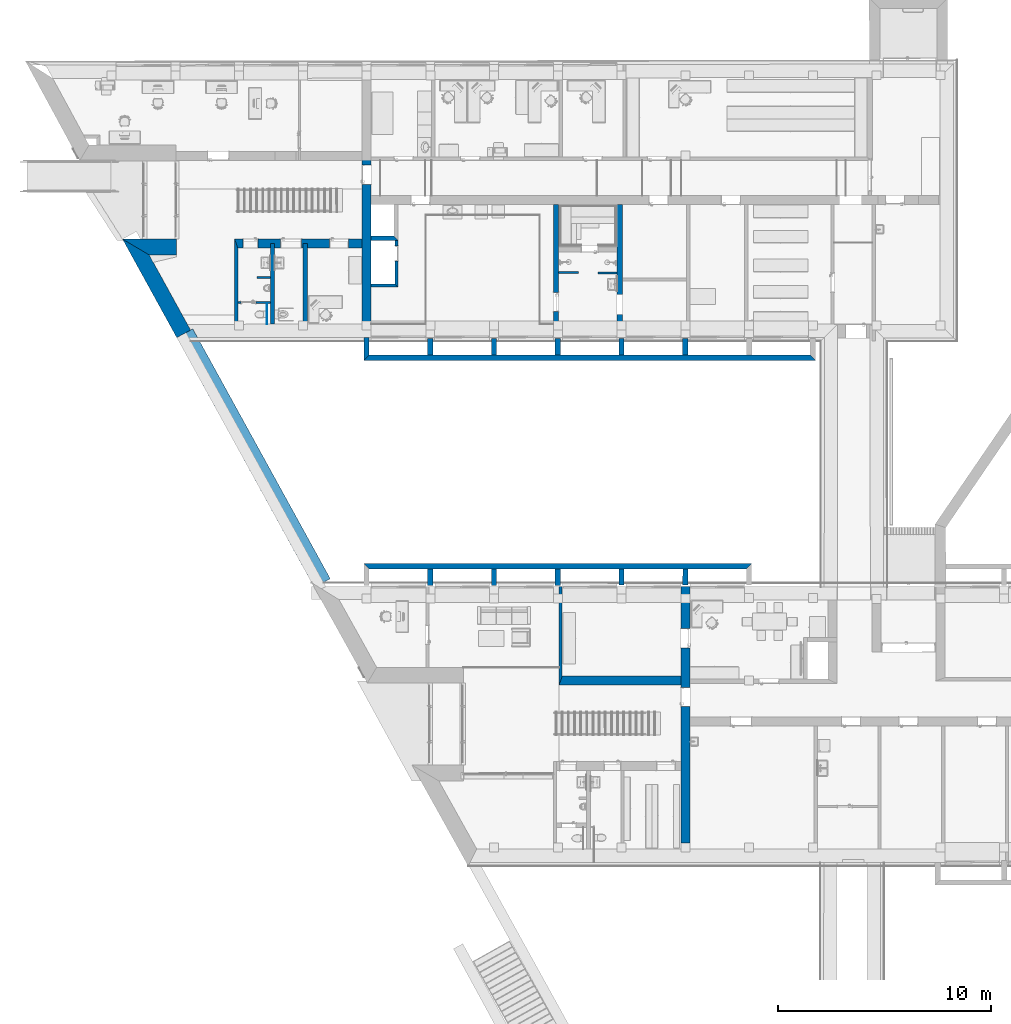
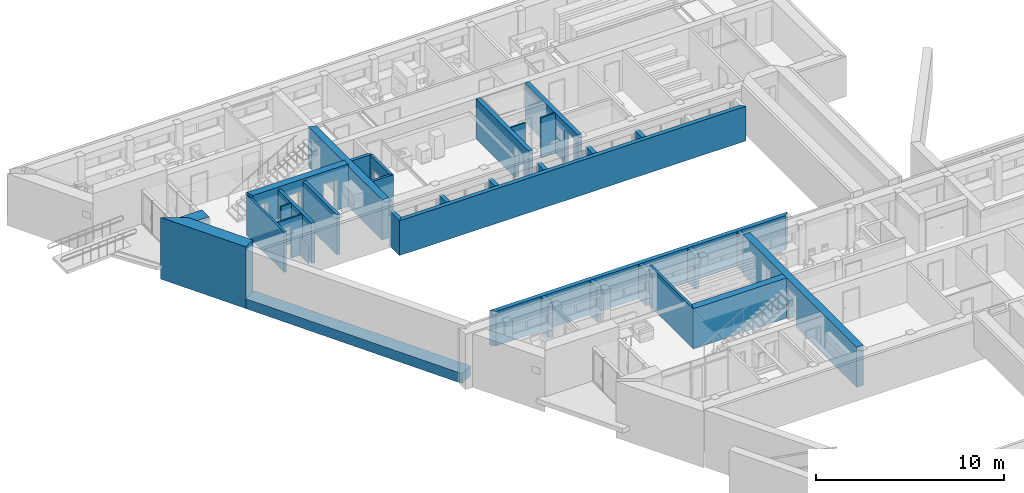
# One storey, part 4 of 127: 34 walls, 10 openings.
"""IFC2X3 building model written with IfcOpenShell, lengths in millimetres."""

from ifc_helpers import new_model, entity, si_unit, converted_unit, derived_unit, money_unit, direction, frame, origin_with_axes, origin_2d_with_axis, place, context, subcontext, project, spatial, polyline, rectangle, outline, extrude, material, layer, layer_set, layer_usage, type_object, element, save


model = new_model("IFC2X3")

# Units and contexts
model_context = context("Model", 3, precision=1e-05, world=origin_with_axes(), true_north=direction((0.0, 1.0)))
body_context = subcontext(model_context, "Body", "Model", "MODEL_VIEW")
ifc_project = project(units=[si_unit("LENGTHUNIT", "METRE", prefix="MILLI"), si_unit("AREAUNIT", "SQUARE_METRE"), si_unit("VOLUMEUNIT", "CUBIC_METRE"), converted_unit("PLANEANGLEUNIT", "DEGREE", entity("IfcPlaneAngleMeasure", 0.0174532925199), si_unit("PLANEANGLEUNIT", "RADIAN"), dimensions=[0, 0, 0, 0, 0, 0, 0]), si_unit("SOLIDANGLEUNIT", "STERADIAN"), money_unit("EUR"), converted_unit("TIMEUNIT", "Year", entity("IfcTimeMeasure", 31556926.0), si_unit("TIMEUNIT", "SECOND"), dimensions=[0, 0, 1, 0, 0, 0, 0]), si_unit("MASSUNIT", "GRAM", prefix="KILO"), si_unit("THERMODYNAMICTEMPERATUREUNIT", "DEGREE_CELSIUS"), si_unit("LUMINOUSINTENSITYUNIT", "LUMEN"), si_unit("ENERGYUNIT", "JOULE", prefix="MEGA"), derived_unit("THERMALCONDUCTANCEUNIT", [(si_unit("POWERUNIT", "WATT"), 1), (si_unit("LENGTHUNIT", "METRE"), -1), (si_unit("THERMODYNAMICTEMPERATUREUNIT", "KELVIN"), -1)]), derived_unit("SPECIFICHEATCAPACITYUNIT", [(si_unit("ENERGYUNIT", "JOULE"), 1), (si_unit("MASSUNIT", "GRAM", prefix="KILO"), -1), (si_unit("THERMODYNAMICTEMPERATUREUNIT", "KELVIN"), -1)]), derived_unit("MASSDENSITYUNIT", [(si_unit("MASSUNIT", "GRAM", prefix="KILO"), 1), (si_unit("VOLUMEUNIT", "CUBIC_METRE"), -1)])], contexts=[model_context])

# Site, building, storey
site_placement = place(None, origin_with_axes())
site = spatial("IfcSite", under=ifc_project, at=site_placement, Name="Site", CompositionType="ELEMENT")
building_placement = place(site_placement, origin_with_axes())
building = spatial("IfcBuilding", under=site, at=building_placement, Name="Building", CompositionType="ELEMENT")
storey_placement = place(building_placement, origin_with_axes())
storey = spatial("IfcBuildingStorey", under=building, at=storey_placement, Name="1 KORRUS", CompositionType="ELEMENT", Elevation=0.0)

# Walls
ifc_material_1 = material(Name="Kivi - Ol.Olev Konstruktsioon")
ifc_layer_1 = layer(ifc_material_1, 860.0, ventilated="UNKNOWN")
ifc_layer_set_1 = layer_set([ifc_layer_1], Name="VUND")
ifc_layer_usage_1 = layer_usage(ifc_layer_set_1, "AXIS2", "POSITIVE", 0.0)
wall_type_1 = type_object("IfcWallType", Name="P-1", PredefinedType="NOTDEFINED")
wall_1_placement = place(storey_placement, frame((7014.5795015, 58955.6349767, -1000.0), z_axis=(0.0, 0.0, 1.0), x_axis=(0.482028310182, -0.876155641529, 0.0)))
element("IfcWallStandardCase", 1, at=wall_1_placement, inside=storey, type_object=wall_type_1, material=ifc_layer_usage_1, Name="VUND", context=body_context, shape_type="SweptSolid", body=[
    extrude(outline(polyline([(0.0, 0.0), (13421.1817003, -4.54747350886e-10), (13421.1817003, 860.0), (0.0, 860.0), (0.0, 0.0)])), origin_with_axes(), (0.0, 0.0, 1.0), 650.0),
])
ifc_material_2 = material(Name="Kivi -Ol.Olev Konstruktsioon")
ifc_layer_2 = layer(ifc_material_2, 200.0, ventilated="UNKNOWN")
ifc_layer_set_2 = layer_set([ifc_layer_2], Name="ol.olev ss 200")
ifc_layer_usage_2 = layer_usage(ifc_layer_set_2, "AXIS2", "POSITIVE", 0.0)
wall_type_2 = type_object("IfcWallType", Name="SW - 022", PredefinedType="NOTDEFINED")
wall_2_placement = place(storey_placement, frame((16158.8775557, 63528.8517422, 0.0), z_axis=(0.0, 0.0, 1.0), x_axis=(0.999998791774, 0.00155449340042, 0.0)))
element("IfcWallStandardCase", 2, at=wall_2_placement, inside=storey, type_object=wall_type_2, material=ifc_layer_usage_2, Name="ol.olev ss 200", context=body_context, shape_type="SweptSolid", body=[
    extrude(outline(polyline([(0.0, 0.0), (1267.30414101, 0.0), (1067.61479842, 200.000000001), (0.310899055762, 200.000000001), (0.0, 0.0)])), origin_with_axes(), (0.0, 0.0, 1.0), 2600.0),
])

# Wall, opening
ifc_layer_3 = layer(ifc_material_2, 420.0, ventilated="UNKNOWN")
ifc_layer_set_3 = layer_set([ifc_layer_3], Name="ol.olev ss 420")
ifc_layer_usage_3 = layer_usage(ifc_layer_set_3, "AXIS2", "POSITIVE", -420.0)
wall_3_placement = place(storey_placement, frame((16158.8775557, 67449.5917349, 0.0), z_axis=(0.0, 0.0, 1.0), x_axis=(0.0, -1.0, 0.0)))
wall_3 = element("IfcWallStandardCase", 3, at=wall_3_placement, inside=storey, type_object=wall_type_2, material=ifc_layer_usage_3, Name="ol.olev ss 420", context=body_context, shape_type="SweptSolid", body=[
    extrude(outline(polyline([(0.0, -420.0), (7863.01195054, -420.0), (7862.96406213, 0.0), (150.0, 0.0), (0.0, -420.0)])), origin_with_axes(), (0.0, 0.0, 1.0), 2600.0),
])
opening_1_placement = place(wall_3_placement, frame((828.270254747, 0.0, 0.0), z_axis=(0.0, 0.0, 1.0), x_axis=(1.0, 0.0, 0.0)))
element("IfcOpeningElement", 4, at=opening_1_placement, cuts=wall_3, Name="Siseuks * Door 22", context=body_context, shape_type="SweptSolid", body=[
    extrude(rectangle(XDim=900.0, YDim=2000.0, at=origin_2d_with_axis()), frame((0.0, 420.0, 1000.0), z_axis=(0.0, -1.0, 0.0), x_axis=(-1.0, 0.0, 0.0)), (0.0, 0.0, 1.0), 1260.0),
    extrude(rectangle(XDim=974.0, YDim=2037.0, at=origin_2d_with_axis()), frame((0.0, 0.0, 1018.5), z_axis=(0.0, -1.0, 0.0), x_axis=(-1.0, 0.0, 0.0)), (0.0, 0.0, -1.0), 420.0),
    extrude(rectangle(XDim=974.0, YDim=2037.0, at=origin_2d_with_axis()), frame((0.0, -420.0, 1018.5), z_axis=(0.0, 1.0, 0.0), x_axis=(-1.0, 0.0, 0.0)), (0.0, 0.0, -1.0), 420.0),
])

# Wall, openings
ifc_layer_usage_4 = layer_usage(ifc_layer_set_3, "AXIS2", "POSITIVE", -420.0)
wall_4_placement = place(storey_placement, frame((9734.30400259, 63603.7903886, 0.0), z_axis=(0.0, 0.0, 1.0), x_axis=(1.0, 0.0, 0.0)))
wall_4 = element("IfcWallStandardCase", 5, at=wall_4_placement, inside=storey, type_object=wall_type_2, material=ifc_layer_usage_4, Name="ol.olev ss 420", context=body_context, shape_type="SweptSolid", body=[
    extrude(outline(polyline([(150.0, -420.0), (6004.57355315, -420.0), (6004.57355315, 0.0), (0.0, 0.0), (150.0, -420.0)])), origin_with_axes(), (0.0, 0.0, 1.0), 2760.92964854),
])
opening_2_placement = place(wall_4_placement, frame((4918.95347095, 0.0, 0.0), z_axis=(0.0, 0.0, 1.0), x_axis=(1.0, 0.0, 0.0)))
element("IfcOpeningElement", 6, at=opening_2_placement, cuts=wall_4, Name="Siseuks * Door 22", context=body_context, shape_type="SweptSolid", body=[
    extrude(rectangle(XDim=900.0, YDim=2000.0, at=origin_2d_with_axis()), frame((0.0, -420.0, 1000.0), z_axis=(0.0, 1.0, 0.0), x_axis=(1.0, 0.0, 0.0)), (0.0, 0.0, 1.0), 1260.0),
    extrude(rectangle(XDim=974.0, YDim=2037.0, at=origin_2d_with_axis()), frame((0.0, -420.0, 1018.5), z_axis=(0.0, 1.0, 0.0), x_axis=(1.0, 0.0, 0.0)), (0.0, 0.0, -1.0), 420.0),
    extrude(rectangle(XDim=974.0, YDim=2037.0, at=origin_2d_with_axis()), frame((0.0, 0.0, 1018.5), z_axis=(0.0, -1.0, 0.0), x_axis=(1.0, 0.0, 0.0)), (0.0, 0.0, -1.0), 420.0),
])
opening_3_placement = place(wall_4_placement, frame((2650.11993024, 0.0, 0.0), z_axis=(0.0, 0.0, 1.0), x_axis=(1.0, 0.0, 0.0)))
element("IfcOpeningElement", 7, at=opening_3_placement, cuts=wall_4, Name="Siseuks * Door 22", context=body_context, shape_type="SweptSolid", body=[
    extrude(rectangle(XDim=1000.0, YDim=2000.0, at=origin_2d_with_axis()), frame((0.0, -420.0, 1000.0), z_axis=(0.0, 1.0, 0.0), x_axis=(1.0, 0.0, 0.0)), (0.0, 0.0, 1.0), 1260.0),
    extrude(rectangle(XDim=1074.0, YDim=2037.0, at=origin_2d_with_axis()), frame((0.0, -420.0, 1018.5), z_axis=(0.0, 1.0, 0.0), x_axis=(1.0, 0.0, 0.0)), (0.0, 0.0, -1.0), 420.0),
    extrude(rectangle(XDim=1074.0, YDim=2037.0, at=origin_2d_with_axis()), frame((0.0, 0.0, 1018.5), z_axis=(0.0, -1.0, 0.0), x_axis=(1.0, 0.0, 0.0)), (0.0, 0.0, -1.0), 420.0),
])
opening_4_placement = place(wall_4_placement, frame((752.382716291, 0.0, 0.0), z_axis=(0.0, 0.0, 1.0), x_axis=(1.0, 0.0, 0.0)))
element("IfcOpeningElement", 8, at=opening_4_placement, cuts=wall_4, Name="Siseuks * Door 22", context=body_context, shape_type="SweptSolid", body=[
    extrude(rectangle(XDim=700.0, YDim=2000.0, at=origin_2d_with_axis()), frame((0.0, -420.0, 1000.0), z_axis=(0.0, -1.0, 0.0), x_axis=(-1.0, 0.0, 0.0)), (0.0, 0.0, -1.0), 1260.0),
    extrude(rectangle(XDim=774.0, YDim=2037.0, at=origin_2d_with_axis()), frame((0.0, -420.0, 1018.5), z_axis=(0.0, -1.0, 0.0), x_axis=(-1.0, 0.0, 0.0)), (0.0, 0.0, 1.0), 420.0),
    extrude(rectangle(XDim=774.0, YDim=2037.0, at=origin_2d_with_axis()), frame((0.0, 0.0, 1018.5), z_axis=(0.0, 1.0, 0.0), x_axis=(-1.0, 0.0, 0.0)), (0.0, 0.0, 1.0), 420.0),
])

# Walls
ifc_layer_usage_5 = layer_usage(ifc_layer_set_3, "AXIS2", "POSITIVE", 0.0)
wall_5_placement = place(storey_placement, frame((25153.610629, 42602.8754334, 0.0), z_axis=(0.0, 0.0, 1.0), x_axis=(1.0, 0.0, 0.0)))
element("IfcWallStandardCase", 9, at=wall_5_placement, inside=storey, type_object=wall_type_2, material=ifc_layer_usage_5, Name="ol.olev ss 420", context=body_context, shape_type="SweptSolid", body=[
    extrude(outline(polyline([(-150.0, 0.0), (5580.19000682, 0.0), (5580.19000682, 420.0), (0.0, 420.0), (-150.0, 0.0)])), origin_with_axes(), (0.0, 0.0, 1.0), 2600.0),
])
ifc_layer_4 = layer(ifc_material_1, 250.0, ventilated="UNKNOWN")
ifc_layer_set_4 = layer_set([ifc_layer_4], Name="Ol.olve tugimüür 250")
ifc_layer_usage_6 = layer_usage(ifc_layer_set_4, "AXIS2", "NEGATIVE", 125.0)
wall_type_3 = type_object("IfcWallType", Name="SW - 028", PredefinedType="NOTDEFINED")
wall_6_placement = place(storey_placement, frame((21944.3481371, 47295.5693652, 0.0), z_axis=(0.0, 0.0, 1.0), x_axis=(0.000248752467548, 0.999999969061, 0.0)))
element("IfcWallStandardCase", 10, at=wall_6_placement, inside=storey, type_object=wall_type_3, material=ifc_layer_usage_6, Name="Ol.olve tugimüür 250", context=body_context, shape_type="SweptSolid", body=[
    extrude(outline(polyline([(-9.09494701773e-10, -125.0), (775.59959276, -125.0), (775.59959276, 125.0), (0.0, 125.0), (-9.09494701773e-10, -125.0)])), origin_with_axes(), (0.0, 0.0, 1.0), 2250.0),
])
ifc_layer_usage_7 = layer_usage(ifc_layer_set_4, "AXIS2", "NEGATIVE", 125.0)
wall_7_placement = place(storey_placement, frame((27944.3507176, 47305.196989, 0.0), z_axis=(0.0, 0.0, 1.0), x_axis=(0.000248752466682, 0.999999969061, 0.0)))
element("IfcWallStandardCase", 11, at=wall_7_placement, inside=storey, type_object=wall_type_3, material=ifc_layer_usage_7, Name="Ol.olve tugimüür 250", context=body_context, shape_type="SweptSolid", body=[
    extrude(outline(polyline([(-9.09494701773e-10, -125.0), (764.479453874, -125.0), (764.479453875, 125.0), (-9.09494701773e-10, 125.0), (-9.09494701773e-10, -125.0)])), origin_with_axes(), (0.0, 0.0, 1.0), 2250.0),
])
ifc_layer_usage_8 = layer_usage(ifc_layer_set_4, "AXIS2", "NEGATIVE", 125.0)
wall_8_placement = place(storey_placement, frame((30944.3520079, 47310.0108009, 0.0), z_axis=(0.0, 0.0, 1.0), x_axis=(0.011377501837, 0.999935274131, 0.0)))
element("IfcWallStandardCase", 12, at=wall_8_placement, inside=storey, type_object=wall_type_3, material=ifc_layer_usage_8, Name="Ol.olve tugimüür 250", context=body_context, shape_type="SweptSolid", body=[
    extrude(outline(polyline([(-9.09494701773e-10, -125.0), (760.357566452, -125.0), (757.57520287, 125.0), (-9.09494701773e-10, 125.0), (-9.09494701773e-10, -125.0)])), origin_with_axes(), (0.0, 0.0, 1.0), 2250.0),
])
ifc_layer_usage_9 = layer_usage(ifc_layer_set_4, "AXIS2", "NEGATIVE", 125.0)
wall_9_placement = place(storey_placement, frame((24944.3494273, 47300.3831771, 0.0), z_axis=(0.0, 0.0, 1.0), x_axis=(0.000248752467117, 0.999999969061, 0.0)))
element("IfcWallStandardCase", 13, at=wall_9_placement, inside=storey, type_object=wall_type_3, material=ifc_layer_usage_9, Name="Ol.olve tugimüür 250", context=body_context, shape_type="SweptSolid", body=[
    extrude(outline(polyline([(0.0, -125.0), (770.039523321, -125.0), (770.039523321, 125.0), (9.09494701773e-10, 125.0), (0.0, -125.0)])), origin_with_axes(), (0.0, 0.0, 1.0), 2250.0),
])

# Wall, openings
ifc_layer_usage_10 = layer_usage(ifc_layer_set_3, "AXIS2", "POSITIVE", 0.0)
wall_type_4 = type_object("IfcWallType", Name="SW - 036", PredefinedType="NOTDEFINED")
wall_10_placement = place(storey_placement, frame((30733.8006358, 47248.9611995, 0.0), z_axis=(0.0, 0.0, 1.0), x_axis=(0.0, -1.0, 0.0)))
wall_10 = element("IfcWallStandardCase", 14, at=wall_10_placement, inside=storey, type_object=wall_type_4, material=ifc_layer_usage_10, Name="ol.olev ss 420", context=body_context, shape_type="SweptSolid", body=[
    extrude(outline(polyline([(0.0, 0.0), (12067.3369297, 0.0), (12067.3369297, 420.0), (0.0, 420.0), (0.0, 0.0)])), origin_with_axes(), (0.0, 0.0, 1.0), 2600.0),
])
opening_5_placement = place(wall_10_placement, frame((5209.12746929, 0.0, 0.0), z_axis=(0.0, 0.0, 1.0), x_axis=(1.0, 0.0, 0.0)))
element("IfcOpeningElement", 15, at=opening_5_placement, cuts=wall_10, Name="Siseuks * Door 22", context=body_context, shape_type="SweptSolid", body=[
    extrude(rectangle(XDim=900.0, YDim=2000.0, at=origin_2d_with_axis()), frame((0.0, 140.0, 1000.0), z_axis=(0.0, -1.0, 0.0), x_axis=(-1.0, 0.0, 0.0)), (0.0, 0.0, -1.0), 700.0),
    extrude(rectangle(XDim=900.0, YDim=2000.0, at=origin_2d_with_axis()), frame((0.0, 140.0, 1000.0), z_axis=(0.0, 1.0, 0.0), x_axis=(-1.0, 0.0, 0.0)), (0.0, 0.0, -1.0), 560.0),
    extrude(rectangle(XDim=974.0, YDim=2037.0, at=origin_2d_with_axis()), frame((0.0, 0.0, 1018.5), z_axis=(0.0, 1.0, 0.0), x_axis=(-1.0, 0.0, 0.0)), (0.0, 0.0, -1.0), 700.0),
    extrude(rectangle(XDim=974.0, YDim=2037.0, at=origin_2d_with_axis()), frame((0.0, 420.0, 1018.5), z_axis=(0.0, -1.0, 0.0), x_axis=(-1.0, 0.0, 0.0)), (0.0, 0.0, -1.0), 700.0),
])
opening_6_placement = place(wall_10_placement, frame((2438.5586569, 0.0, 0.0), z_axis=(0.0, 0.0, 1.0), x_axis=(1.0, 0.0, 0.0)))
element("IfcOpeningElement", 16, at=opening_6_placement, cuts=wall_10, Name="Siseuks * Door 22", context=body_context, shape_type="SweptSolid", body=[
    extrude(rectangle(XDim=900.0, YDim=2000.0, at=origin_2d_with_axis()), frame((0.0, 280.0, 1000.0), z_axis=(0.0, -1.0, 0.0), x_axis=(-1.0, 0.0, 0.0)), (0.0, 0.0, 1.0), 700.0),
    extrude(rectangle(XDim=900.0, YDim=2000.0, at=origin_2d_with_axis()), frame((0.0, 280.0, 1000.0), z_axis=(0.0, 1.0, 0.0), x_axis=(-1.0, 0.0, 0.0)), (0.0, 0.0, 1.0), 560.0),
    extrude(rectangle(XDim=974.0, YDim=2037.0, at=origin_2d_with_axis()), frame((0.0, 420.0, 1018.5), z_axis=(0.0, 1.0, 0.0), x_axis=(-1.0, 0.0, 0.0)), (0.0, 0.0, 1.0), 700.0),
    extrude(rectangle(XDim=974.0, YDim=2037.0, at=origin_2d_with_axis()), frame((0.0, 0.0, 1018.5), z_axis=(0.0, -1.0, 0.0), x_axis=(-1.0, 0.0, 0.0)), (0.0, 0.0, 1.0), 700.0),
])

# Wall, opening
ifc_layer_5 = layer(ifc_material_2, 250.0, ventilated="UNKNOWN")
ifc_layer_set_5 = layer_set([ifc_layer_5], Name="ol.olev ss 250")
ifc_layer_usage_11 = layer_usage(ifc_layer_set_5, "AXIS2", "POSITIVE", 0.0)
wall_11_placement = place(storey_placement, frame((27734.7274585, 65636.3690561, 0.0), z_axis=(0.0, 0.0, 1.0), x_axis=(0.0, -1.0, 0.0)))
wall_11 = element("IfcWallStandardCase", 17, at=wall_11_placement, inside=storey, type_object=wall_type_4, material=ifc_layer_usage_11, Name="ol.olev ss 250", context=body_context, shape_type="SweptSolid", body=[
    extrude(outline(polyline([(420.0, 0.0), (6048.39493289, 0.0), (6048.39493289, 250.0), (420.0, 250.0), (420.0, 0.0)])), origin_with_axes(), (0.0, 0.0, 1.0), 2600.0),
])
opening_7_placement = place(wall_11_placement, frame((5120.64720185, 0.0, 0.0), z_axis=(0.0, 0.0, 1.0), x_axis=(1.0, 0.0, 0.0)))
element("IfcOpeningElement", 18, at=opening_7_placement, cuts=wall_11, Name="Background;  Objekti nimi: Simple Door Opening", context=body_context, shape_type="SweptSolid", body=[
    extrude(rectangle(XDim=950.0, YDim=2100.0, at=origin_2d_with_axis()), frame((0.0, 250.0, 1050.0), z_axis=(0.0, -1.0, 0.0), x_axis=(1.0, 0.0, 0.0)), (0.0, 0.0, -1.0), 250.0),
    extrude(rectangle(XDim=950.0, YDim=2100.0, at=origin_2d_with_axis()), frame((0.0, 250.0, 1050.0), z_axis=(0.0, 1.0, 0.0), x_axis=(1.0, 0.0, 0.0)), (0.0, 0.0, -1.0), 250.0),
])

ifc_layer_usage_12 = layer_usage(ifc_layer_set_5, "AXIS2", "POSITIVE", 0.0)
wall_12_placement = place(storey_placement, frame((24738.1366535, 65636.3690561, 0.0), z_axis=(0.0, 0.0, 1.0), x_axis=(0.0, -1.0, 0.0)))
wall_12 = element("IfcWallStandardCase", 19, at=wall_12_placement, inside=storey, type_object=wall_type_4, material=ifc_layer_usage_12, Name="ol.olev ss 250", context=body_context, shape_type="SweptSolid", body=[
    extrude(outline(polyline([(420.0, 0.0), (6048.6949808, 0.0), (6048.6949808, 250.0), (420.0, 250.0), (420.0, 0.0)])), origin_with_axes(), (0.0, 0.0, 1.0), 2600.0),
])
opening_8_placement = place(wall_12_placement, frame((5002.78321765, 0.0, 0.0), z_axis=(0.0, 0.0, 1.0), x_axis=(1.0, 0.0, 0.0)))
element("IfcOpeningElement", 20, at=opening_8_placement, cuts=wall_12, Name="Siseuks * Door 22", context=body_context, shape_type="SweptSolid", body=[
    extrude(rectangle(XDim=900.0, YDim=2000.0, at=origin_2d_with_axis()), frame((0.0, -250.0, 1000.0), z_axis=(0.0, -1.0, 0.0), x_axis=(1.0, 0.0, 0.0)), (0.0, 0.0, -1.0), 750.0),
    extrude(rectangle(XDim=974.0, YDim=2037.0, at=origin_2d_with_axis()), frame((0.0, 0.0, 1018.5), z_axis=(0.0, -1.0, 0.0), x_axis=(1.0, 0.0, 0.0)), (0.0, 0.0, 1.0), 250.0),
    extrude(rectangle(XDim=974.0, YDim=2037.0, at=origin_2d_with_axis()), frame((0.0, 250.0, 1018.5), z_axis=(0.0, 1.0, 0.0), x_axis=(1.0, 0.0, 0.0)), (0.0, 0.0, 1.0), 250.0),
])

# Walls
ifc_layer_usage_13 = layer_usage(ifc_layer_set_2, "AXIS2", "POSITIVE", -200.0)
wall_13_placement = place(storey_placement, frame((13156.6259071, 63386.664561, 0.0), z_axis=(0.0, 0.0, 1.0), x_axis=(0.0, -1.0, 0.0)))
element("IfcWallStandardCase", 21, at=wall_13_placement, inside=storey, type_object=wall_type_4, material=ifc_layer_usage_13, Name="ol.olev ss 200", context=body_context, shape_type="SweptSolid", body=[
    extrude(outline(polyline([(0.0, -200.0), (3800.40200907, -200.0), (3800.37920506, 0.0), (0.0, 0.0), (0.0, -200.0)])), origin_with_axes(), (0.0, 0.0, 1.0), 2600.0),
])
ifc_layer_6 = layer(ifc_material_2, 150.0, ventilated="UNKNOWN")
ifc_layer_set_6 = layer_set([ifc_layer_6], Name="ol.olev ss 150")
ifc_layer_usage_14 = layer_usage(ifc_layer_set_6, "AXIS2", "POSITIVE", 0.0)
wall_14_placement = place(storey_placement, frame((9734.30400259, 63603.7903886, 0.0), z_axis=(0.0, 0.0, 1.0), x_axis=(0.0, -1.0, 0.0)))
element("IfcWallStandardCase", 22, at=wall_14_placement, inside=storey, type_object=wall_type_4, material=ifc_layer_usage_14, Name="ol.olev ss 150", context=body_context, shape_type="SweptSolid", body=[
    extrude(outline(polyline([(0.0, 0.0), (4017.89524594, 0.0), (4017.87814293, 150.0), (420.0, 150.0), (0.0, 0.0)])), origin_with_axes(), (0.0, 0.0, 1.0), 2600.0),
])
ifc_layer_usage_15 = layer_usage(ifc_layer_set_6, "AXIS2", "POSITIVE", -150.0)
wall_15_placement = place(storey_placement, frame((25153.610629, 47250.4123511, 0.0), z_axis=(0.0, 0.0, 1.0), x_axis=(0.0, -1.0, 0.0)))
element("IfcWallStandardCase", 23, at=wall_15_placement, inside=storey, type_object=wall_type_4, material=ifc_layer_usage_15, Name="ol.olev ss 150", context=body_context, shape_type="SweptSolid", body=[
    extrude(outline(polyline([(0.0, -150.0), (4647.53691769, -150.0), (4227.53691769, 0.0), (0.0, 0.0), (0.0, -150.0)])), origin_with_axes(), (0.0, 0.0, 1.0), 2600.0),
])
ifc_layer_7 = layer(ifc_material_1, 740.0, ventilated="UNKNOWN")
ifc_layer_set_7 = layer_set([ifc_layer_7], Name="VS1")
ifc_layer_usage_16 = layer_usage(ifc_layer_set_7, "AXIS2", "POSITIVE", -740.0)
wall_type_5 = type_object("IfcWallType", Name="VS-1", PredefinedType="NOTDEFINED")
wall_16_placement = place(storey_placement, frame((4463.32290382, 63589.397605, 0.0), z_axis=(0.0, 0.0, 1.0), x_axis=(0.999999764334, 0.000686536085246, 0.0)))
element("IfcWallStandardCase", 24, at=wall_16_placement, inside=storey, type_object=wall_type_5, material=ifc_layer_usage_16, Name="VS1", context=body_context, shape_type="SweptSolid", body=[
    extrude(outline(polyline([(1251.18069529, -740.0), (2541.9808775, -739.999999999), (2541.9808775, 0.0), (-7.95807864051e-10, 0.0), (1251.18069529, -740.0)])), origin_with_axes(), (0.0, 0.0, 1.0), 2600.0),
])
ifc_layer_usage_17 = layer_usage(ifc_layer_set_7, "AXIS2", "POSITIVE", -740.0)
wall_17_placement = place(storey_placement, frame((7014.54250893, 58955.5850313, -1000.0), z_axis=(0.0, 0.0, 1.0), x_axis=(-0.482299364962, 0.876006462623, 0.0)))
element("IfcWallStandardCase", 25, at=wall_17_placement, inside=storey, type_object=wall_type_5, material=ifc_layer_usage_17, Name="VS1", context=body_context, shape_type="SweptSolid", body=[
    extrude(outline(polyline([(0.0, -740.0), (4038.5206613, -740.0), (5289.70135659, -4.54747350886e-10), (0.0, 0.0), (0.0, -740.0)])), origin_with_axes(), (0.0, 0.0, 1.0), 4000.0),
])
ifc_layer_usage_18 = layer_usage(ifc_layer_set_2, "AXIS2", "POSITIVE", -200.0)
wall_type_6 = type_object("IfcWallType", Name="SW - 037", PredefinedType="NOTDEFINED")
wall_18_placement = place(storey_placement, frame((11616.6560795, 63386.6871013, 0.0), z_axis=(0.0, 0.0, 1.0), x_axis=(0.0, -1.0, 0.0)))
element("IfcWallStandardCase", 26, at=wall_18_placement, inside=storey, type_object=wall_type_6, material=ifc_layer_usage_18, Name="ol.olev ss 200", context=body_context, shape_type="SweptSolid", body=[
    extrude(outline(polyline([(0.0, -200.0), (3800.60013679, -200.0), (3800.57733278, 0.0), (0.0, 0.0), (0.0, -200.0)])), origin_with_axes(), (0.0, 0.0, 1.0), 2600.0),
])
ifc_layer_8 = layer(ifc_material_2, 100.0, ventilated="UNKNOWN")
ifc_layer_set_8 = layer_set([ifc_layer_8], Name="ol.olev ss 100")
ifc_layer_usage_19 = layer_usage(ifc_layer_set_8, "AXIS2", "POSITIVE", 0.0)
wall_19_placement = place(storey_placement, frame((10786.5375539, 61734.3584592, 0.0), z_axis=(0.0, 0.0, 1.0), x_axis=(1.0, 0.0, 0.0)))
element("IfcWallStandardCase", 27, at=wall_19_placement, inside=storey, type_object=wall_type_6, material=ifc_layer_usage_19, Name="ol.olev ss 100", context=body_context, shape_type="SweptSolid", body=[
    extrude(outline(polyline([(0.0, 0.0), (630.118525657, 0.0), (630.118525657, 100.0), (0.0, 100.0), (0.0, 0.0)])), origin_with_axes(), (0.0, 0.0, 1.0), 2600.0),
])

# Wall, opening
ifc_layer_usage_20 = layer_usage(ifc_layer_set_8, "AXIS2", "POSITIVE", 0.0)
wall_20_placement = place(storey_placement, frame((9734.30400259, 60560.9804946, 0.0), z_axis=(0.0, 0.0, 1.0), x_axis=(1.0, 0.0, 0.0)))
wall_20 = element("IfcWallStandardCase", 28, at=wall_20_placement, inside=storey, type_object=wall_type_6, material=ifc_layer_usage_20, Name="ol.olev ss 100", context=body_context, shape_type="SweptSolid", body=[
    extrude(outline(polyline([(150.0, 0.0), (1682.35207692, 0.0), (1682.35207692, 100.0), (150.0, 100.0), (150.0, 0.0)])), origin_with_axes(), (0.0, 0.0, 1.0), 2600.0),
])
opening_9_placement = place(wall_20_placement, frame((650.978587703, 0.0, 0.0), z_axis=(0.0, 0.0, 1.0), x_axis=(1.0, 0.0, 0.0)))
element("IfcOpeningElement", 29, at=opening_9_placement, cuts=wall_20, Name="Siseuks * Door 22", context=body_context, shape_type="SweptSolid", body=[
    extrude(rectangle(XDim=700.0, YDim=2100.0, at=origin_2d_with_axis()), frame((0.0, -100.0, 1050.0), z_axis=(0.0, -1.0, 0.0), x_axis=(-1.0, 0.0, 0.0)), (0.0, 0.0, -1.0), 300.000000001),
    extrude(rectangle(XDim=774.0, YDim=2137.0, at=origin_2d_with_axis()), frame((0.0, 0.0, 1068.5), z_axis=(0.0, -1.0, 0.0), x_axis=(-1.0, 0.0, 0.0)), (0.0, 0.0, 1.0), 100.0),
    extrude(rectangle(XDim=774.0, YDim=2137.0, at=origin_2d_with_axis()), frame((0.0, 100.0, 1068.5), z_axis=(0.0, 1.0, 0.0), x_axis=(-1.0, 0.0, 0.0)), (0.0, 0.0, 1.0), 100.0),
])

# Walls
ifc_layer_usage_21 = layer_usage(ifc_layer_set_4, "AXIS2", "NEGATIVE", 125.0)
wall_type_7 = type_object("IfcWallType", Name="SW - 029", PredefinedType="NOTDEFINED")
wall_21_placement = place(storey_placement, frame((15946.2571157, 58956.9454858, 0.0), z_axis=(0.0, 0.0, 1.0), x_axis=(0.0, -1.0, 0.0)))
element("IfcWallStandardCase", 30, at=wall_21_placement, inside=storey, type_object=wall_type_7, material=ifc_layer_usage_21, Name="Ol.olve tugimüür 250", context=body_context, shape_type="SweptSolid", body=[
    extrude(outline(polyline([(0.0, -125.0), (1070.23838146, -125.0), (820.238381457, 125.0), (0.0, 125.0), (0.0, -125.0)])), origin_with_axes(), (0.0, 0.0, 1.0), 2250.0),
])
ifc_layer_usage_22 = layer_usage(ifc_layer_set_4, "AXIS2", "NEGATIVE", 125.0)
wall_22_placement = place(storey_placement, frame((24946.2570572, 58907.606623, 0.0), z_axis=(0.0, 0.0, 1.0), x_axis=(0.0, -1.0, 0.0)))
element("IfcWallStandardCase", 31, at=wall_22_placement, inside=storey, type_object=wall_type_7, material=ifc_layer_usage_22, Name="Ol.olve tugimüür 250", context=body_context, shape_type="SweptSolid", body=[
    extrude(outline(polyline([(0.0, -125.0), (770.899518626, -125.0), (770.899518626, 125.0), (0.0, 125.0), (0.0, -125.0)])), origin_with_axes(), (0.0, 0.0, 1.0), 2250.0),
])
ifc_layer_usage_23 = layer_usage(ifc_layer_set_4, "AXIS2", "NEGATIVE", 125.0)
wall_23_placement = place(storey_placement, frame((21946.2570962, 58906.7597652, 0.0), z_axis=(0.0, 0.0, 1.0), x_axis=(0.0, -1.0, 0.0)))
element("IfcWallStandardCase", 32, at=wall_23_placement, inside=storey, type_object=wall_type_7, material=ifc_layer_usage_23, Name="Ol.olve tugimüür 250", context=body_context, shape_type="SweptSolid", body=[
    extrude(outline(polyline([(0.0, -125.0), (770.052660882, -125.0), (770.052660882, 125.0), (0.0, 125.0), (0.0, -125.0)])), origin_with_axes(), (0.0, 0.0, 1.0), 2250.0),
])
ifc_layer_usage_24 = layer_usage(ifc_layer_set_4, "AXIS2", "NEGATIVE", 125.0)
wall_24_placement = place(storey_placement, frame((18946.2571157, 58906.3363363, 0.0), z_axis=(0.0, 0.0, 1.0), x_axis=(0.0, -1.0, 0.0)))
element("IfcWallStandardCase", 33, at=wall_24_placement, inside=storey, type_object=wall_type_7, material=ifc_layer_usage_24, Name="Ol.olve tugimüür 250", context=body_context, shape_type="SweptSolid", body=[
    extrude(outline(polyline([(0.0, -125.0), (769.629232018, -125.0), (769.629232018, 125.0), (0.0, 125.0), (0.0, -125.0)])), origin_with_axes(), (0.0, 0.0, 1.0), 2250.0),
])
ifc_layer_usage_25 = layer_usage(ifc_layer_set_4, "AXIS2", "NEGATIVE", 125.0)
wall_25_placement = place(storey_placement, frame((30946.2570377, 58908.0300518, 0.0), z_axis=(0.0, 0.0, 1.0), x_axis=(0.0, -1.0, 0.0)))
element("IfcWallStandardCase", 34, at=wall_25_placement, inside=storey, type_object=wall_type_7, material=ifc_layer_usage_25, Name="Ol.olve tugimüür 250", context=body_context, shape_type="SweptSolid", body=[
    extrude(outline(polyline([(0.0, -125.0), (771.322947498, -125.0), (771.322947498, 125.0), (0.0, 125.0), (0.0, -125.0)])), origin_with_axes(), (0.0, 0.0, 1.0), 2250.0),
])
ifc_layer_usage_26 = layer_usage(ifc_layer_set_4, "AXIS2", "NEGATIVE", 125.0)
wall_26_placement = place(storey_placement, frame((27946.2570572, 58907.606623, 0.0), z_axis=(0.0, 0.0, 1.0), x_axis=(0.0, -1.0, 0.0)))
element("IfcWallStandardCase", 35, at=wall_26_placement, inside=storey, type_object=wall_type_7, material=ifc_layer_usage_26, Name="Ol.olve tugimüür 250", context=body_context, shape_type="SweptSolid", body=[
    extrude(outline(polyline([(0.0, -125.0), (770.899518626, -125.0), (770.899518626, 125.0), (0.0, 125.0), (0.0, -125.0)])), origin_with_axes(), (0.0, 0.0, 1.0), 2250.0),
])
ifc_layer_usage_27 = layer_usage(ifc_layer_set_4, "AXIS2", "NEGATIVE", 250.0)
wall_type_8 = type_object("IfcWallType", Name="SW - 025", PredefinedType="NOTDEFINED")
wall_27_placement = place(storey_placement, frame((15944.7273383, 48072.6614025, 0.0), z_axis=(0.0, 0.0, 1.0), x_axis=(0.999999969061, -0.00024875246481, 0.0)))
element("IfcWallStandardCase", 36, at=wall_27_placement, inside=storey, type_object=wall_type_8, material=ifc_layer_usage_27, Name="Ol.olve tugimüür 250", context=body_context, shape_type="SweptSolid", body=[
    extrude(outline(polyline([(125.0, 9.09494701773e-10), (17874.8139167, 0.0), (18124.8139167, 250.000000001), (-124.999999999, 250.000000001), (125.0, 9.09494701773e-10)])), origin_with_axes(), (0.0, 0.0, 1.0), 2250.0),
])
ifc_layer_usage_28 = layer_usage(ifc_layer_set_4, "AXIS2", "NEGATIVE", 125.0)
wall_type_9 = type_object("IfcWallType", Name="SW - 027", PredefinedType="NOTDEFINED")
wall_28_placement = place(storey_placement, frame((18944.5329302, 47290.755852, 0.0), z_axis=(0.0, 0.0, 1.0), x_axis=(0.000248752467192, 0.999999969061, 0.0)))
element("IfcWallStandardCase", 37, at=wall_28_placement, inside=storey, type_object=wall_type_9, material=ifc_layer_usage_28, Name="Ol.olve tugimüür 250", context=body_context, shape_type="SweptSolid", body=[
    extrude(outline(polyline([(0.0, -125.0), (781.159317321, -125.0), (781.15931732, 125.0), (9.09494701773e-10, 125.0), (0.0, -125.0)])), origin_with_axes(), (0.0, 0.0, 1.0), 2250.0),
])
ifc_layer_usage_29 = layer_usage(ifc_layer_set_8, "AXIS2", "POSITIVE", 0.0)
wall_type_10 = type_object("IfcWallType", Name="SW - 038", PredefinedType="NOTDEFINED")
wall_29_placement = place(storey_placement, frame((26847.7462475, 61951.1832586, 0.0), z_axis=(0.0, 0.0, 1.0), x_axis=(1.0, 0.0, 0.0)))
element("IfcWallStandardCase", 38, at=wall_29_placement, inside=storey, type_object=wall_type_10, material=ifc_layer_usage_29, Name="ol.olev ss 100", context=body_context, shape_type="SweptSolid", body=[
    extrude(outline(polyline([(0.0, 0.0), (886.981211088, 0.0), (886.981211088, 100.0), (0.0, 100.0), (0.0, 0.0)])), origin_with_axes(), (0.0, 0.0, 1.0), 2600.0),
])
ifc_layer_usage_30 = layer_usage(ifc_layer_set_8, "AXIS2", "POSITIVE", 0.0)
wall_30_placement = place(storey_placement, frame((24738.1366535, 61976.4797944, 0.0), z_axis=(0.0, 0.0, 1.0), x_axis=(1.0, 0.0, 0.0)))
element("IfcWallStandardCase", 39, at=wall_30_placement, inside=storey, type_object=wall_type_10, material=ifc_layer_usage_30, Name="ol.olev ss 100", context=body_context, shape_type="SweptSolid", body=[
    extrude(outline(polyline([(250.0, 0.0), (1169.58409652, 0.0), (1169.58409652, 100.0), (250.0, 100.0), (250.0, 0.0)])), origin_with_axes(), (0.0, 0.0, 1.0), 2600.0),
])
ifc_material_3 = material(Name="Kivi -  Uus Konstruktsioon")
ifc_layer_9 = layer(ifc_material_3, 150.0, ventilated="UNKNOWN")
ifc_layer_set_9 = layer_set([ifc_layer_9], Name="uus ss 150")
ifc_layer_usage_31 = layer_usage(ifc_layer_set_9, "AXIS2", "NEGATIVE", 0.0)
wall_type_11 = type_object("IfcWallType", Name="SS-1", PredefinedType="NOTDEFINED")
wall_31_placement = place(storey_placement, frame((17426.1801656, 61330.8217582, 0.0), z_axis=(0.0, 0.0, 1.0), x_axis=(-1.0, 0.0, 0.0)))
element("IfcWallStandardCase", 40, at=wall_31_placement, inside=storey, type_object=wall_type_11, material=ifc_layer_usage_31, Name="sahti sein", context=body_context, shape_type="SweptSolid", body=[
    extrude(outline(polyline([(150.0, -150.0), (1267.30260983, -150.0), (1267.30260983, 0.0), (0.0, 0.0), (150.0, -150.0)])), origin_with_axes(), (0.0, 0.0, 1.0), 2600.0),
])

# Wall, opening
ifc_layer_usage_32 = layer_usage(ifc_layer_set_9, "AXIS2", "NEGATIVE", 0.0)
wall_32_placement = place(storey_placement, frame((17426.1801656, 63530.8217582, 0.0), z_axis=(0.0, 0.0, 1.0), x_axis=(0.0, -1.0, 0.0)))
wall_32 = element("IfcWallStandardCase", 41, at=wall_32_placement, inside=storey, type_object=wall_type_11, material=ifc_layer_usage_32, Name="sahti sein", context=body_context, shape_type="SweptSolid", body=[
    extrude(outline(polyline([(0.0, -150.0), (2050.0, -150.0), (2200.0, 0.0), (0.0, 0.0), (0.0, -150.0)])), origin_with_axes(), (0.0, 0.0, 1.0), 2600.0),
])
opening_10_placement = place(wall_32_placement, frame((609.343086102, 0.0, 0.0), z_axis=(0.0, 0.0, 1.0), x_axis=(1.0, 0.0, 0.0)))
element("IfcOpeningElement", 42, at=opening_10_placement, cuts=wall_32, Name="Teenindus luuk * Door 22", context=body_context, shape_type="SweptSolid", body=[
    extrude(rectangle(XDim=700.000000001, YDim=1800.0, at=origin_2d_with_axis()), frame((0.0, -150.0, 900.0), z_axis=(0.0, 1.0, 0.0), x_axis=(1.0, 0.0, 0.0)), (0.0, 0.0, 1.0), 450.0),
    extrude(rectangle(XDim=773.999999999, YDim=1837.0, at=origin_2d_with_axis()), frame((0.0, -150.0, 918.5), z_axis=(0.0, 1.0, 0.0), x_axis=(1.0, 0.0, 0.0)), (0.0, 0.0, -1.0), 150.0),
    extrude(rectangle(XDim=773.999999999, YDim=1837.0, at=origin_2d_with_axis()), frame((0.0, 0.0, 918.5), z_axis=(0.0, -1.0, 0.0), x_axis=(1.0, 0.0, 0.0)), (0.0, 0.0, -1.0), 150.0),
])

# Walls
ifc_layer_usage_33 = layer_usage(ifc_layer_set_4, "AXIS2", "POSITIVE", 0.0)
wall_type_12 = type_object("IfcWallType", Name="SW - 026", PredefinedType="NOTDEFINED")
wall_33_placement = place(storey_placement, frame((15946.2571157, 57886.7071043, 0.0), z_axis=(0.0, 0.0, 1.0), x_axis=(1.0, 0.0, 0.0)))
element("IfcWallStandardCase", 43, at=wall_33_placement, inside=storey, type_object=wall_type_12, material=ifc_layer_usage_33, Name="Ol.olve tugimüür 250", context=body_context, shape_type="SweptSolid", body=[
    extrude(outline(polyline([(-125.0, 0.0), (21124.9999025, 0.0), (20874.9999025, 250.0), (125.0, 250.0), (-125.0, 0.0)])), origin_with_axes(), (0.0, 0.0, 1.0), 2250.0),
])
ifc_material_4 = material(Name="Kipsplaat")
ifc_layer_10 = layer(ifc_material_4, 13.0, ventilated="UNKNOWN")
ifc_layer_set_10 = layer_set([ifc_layer_10], Name="Kipsplaat 13")
ifc_layer_usage_34 = layer_usage(ifc_layer_set_10, "AXIS2", "NEGATIVE", 0.0)
wall_type_13 = type_object("IfcWallType", Name="loputuskasti raam", PredefinedType="NOTDEFINED")
wall_34_placement = place(storey_placement, frame((11266.6560805, 60560.9633916, 0.0), z_axis=(0.0, 0.0, 1.0), x_axis=(0.0, -1.0, 0.0)))
element("IfcWallStandardCase", 44, at=wall_34_placement, inside=storey, type_object=wall_type_13, material=ifc_layer_usage_34, Name="Kipsplaat", context=body_context, shape_type="SweptSolid", body=[
    extrude(outline(polyline([(0.0, -13.0), (974.895012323, -13.0), (974.893530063, 0.0), (0.0, 0.0), (0.0, -13.0)])), origin_with_axes(), (0.0, 0.0, 1.0), 1200.0),
])

save(model, "model.ifc")
